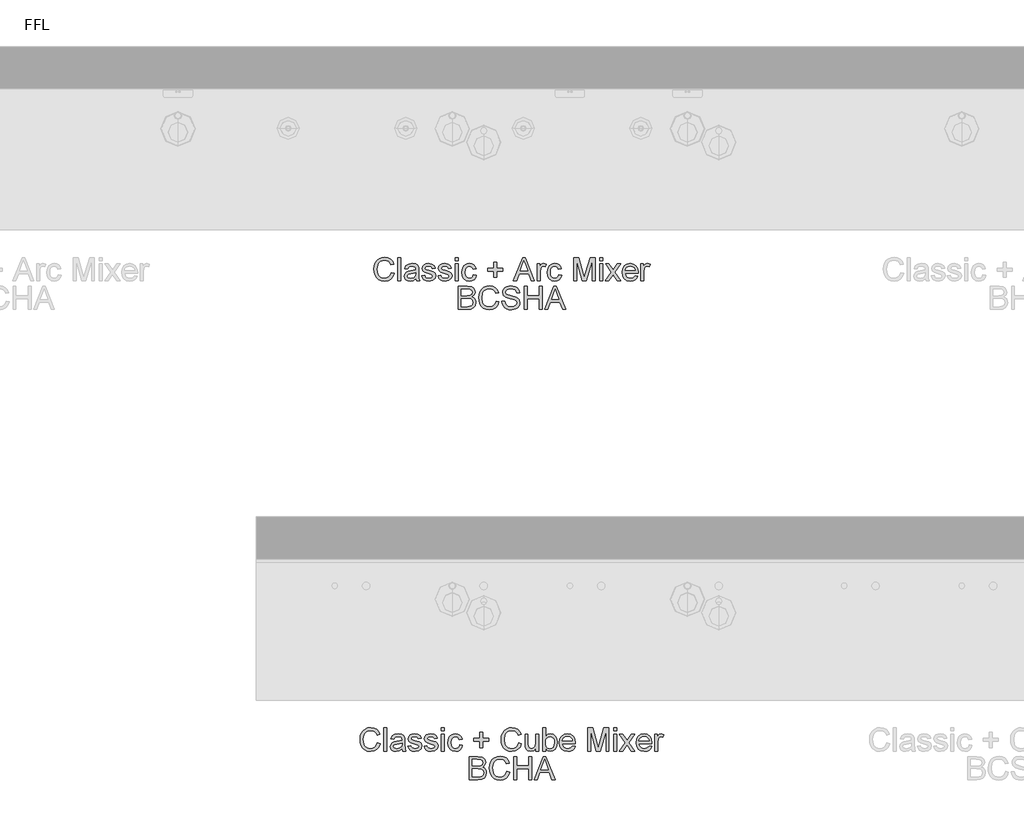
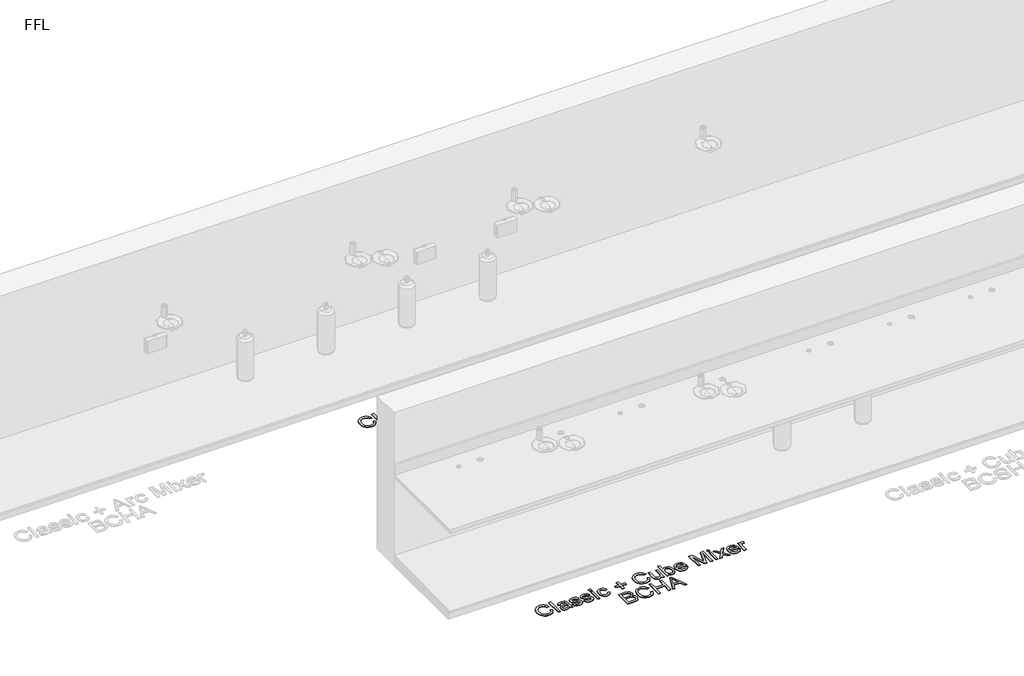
# One storey, part 6 of 13: 2 proxies.
"""IFC4 building model written with IfcOpenShell, lengths in millimetres."""

import ifcopenshell
import ifcopenshell.guid

model = None  # the IFC model being written
_history = None  # IfcOwnerHistory: only IFC2X3 demands one
_inside = {}  # id of a spatial element -> (the spatial element, [elements in it])
_under = {}  # id of a project, library or spatial element -> (it, [spatial elements below it])
_declared = {}  # id of a project -> (the project, [libraries it declares])
_typed = {}  # id of a type object -> (the type object, [elements of that type])
_made_of = {}  # id of a material, layer set ... -> (it, [elements and type objects made of it])


def new_model(schema):
    """Start an empty IFC model of exactly this schema.

    Asked for "IFC4X3", IfcOpenShell would pick the latest addendum, in which some entities
    have other attributes; the version numbers below select the first issue.
    IFC2X3 requires an IfcOwnerHistory on every rooted entity: one is made here for all.
    """
    global model, _history
    if schema == "IFC4X3":
        model = ifcopenshell.file(schema_version=(4, 3, 0, 0))
    else:
        model = ifcopenshell.file(schema=schema)
    _inside.clear()
    _under.clear()
    _declared.clear()
    _typed.clear()
    _made_of.clear()
    _history = None
    if model.schema == "IFC2X3":
        org = make("IfcOrganization", Name="unknown")
        user = make(
            "IfcPersonAndOrganization",
            ThePerson=make("IfcPerson", FamilyName="unknown"),
            TheOrganization=org,
        )
        app = make(
            "IfcApplication",
            ApplicationDeveloper=org,
            Version="unknown",
            ApplicationFullName="unknown",
            ApplicationIdentifier="unknown",
        )
        _history = make(
            "IfcOwnerHistory",
            OwningUser=user,
            OwningApplication=app,
            ChangeAction="ADDED",
            CreationDate=0,
        )
    return model


def make(cls, **values):
    """One entity of the class cls with the attributes given. An attribute that is None is left unset."""
    return model.create_entity(
        cls, **{name: value for name, value in values.items() if value is not None}
    )


def rooted(cls, **values):
    """An entity with a GlobalId (a new one), such as an element, a storey or a relation."""
    return make(cls, GlobalId=ifcopenshell.guid.new(), OwnerHistory=_history, **values)


def si_unit(unit_type, name, prefix=None):
    """IfcSIUnit, for example si_unit("LENGTHUNIT", "METRE", prefix="MILLI")."""
    return make("IfcSIUnit", UnitType=unit_type, Prefix=prefix, Name=name)


def assignment(units):
    """IfcUnitAssignment: the units of a project."""
    return None if units is None else make("IfcUnitAssignment", Units=units)


def point(xyz):
    """IfcCartesianPoint."""
    return None if xyz is None else make("IfcCartesianPoint", Coordinates=xyz)


def direction(xyz):
    """IfcDirection."""
    return None if xyz is None else make("IfcDirection", DirectionRatios=xyz)


def frame(location, z_axis=None, x_axis=None):
    """IfcAxis2Placement3D, a coordinate frame: its origin and axes. An axis left out is left unset."""
    return make(
        "IfcAxis2Placement3D",
        Location=point(location),
        Axis=direction(z_axis),
        RefDirection=direction(x_axis),
    )


def origin():
    """The frame at (0, 0, 0) with its axes left unset."""
    return frame((0.0, 0.0, 0.0))


def origin_with_axes():
    """The frame at (0, 0, 0) with the z axis (0, 0, 1) and the x axis (1, 0, 0) written out."""
    return frame((0.0, 0.0, 0.0), z_axis=(0.0, 0.0, 1.0), x_axis=(1.0, 0.0, 0.0))


def place(relative_to, where):
    """IfcLocalPlacement: puts the frame where relative to a parent placement (None: the world)."""
    return make(
        "IfcLocalPlacement", PlacementRelTo=relative_to, RelativePlacement=where
    )


def context(
    kind, dimensions, precision=None, world=None, true_north=None, identifier=None
):
    """IfcGeometricRepresentationContext, for example the 3D "Model" context."""
    return make(
        "IfcGeometricRepresentationContext",
        ContextIdentifier=identifier,
        ContextType=kind,
        CoordinateSpaceDimension=dimensions,
        Precision=precision,
        WorldCoordinateSystem=world,
        TrueNorth=true_north,
    )


def project(units=None, contexts=None):
    """IfcProject with its units and contexts."""
    return rooted(
        "IfcProject",
        Name="project",
        RepresentationContexts=contexts,
        UnitsInContext=assignment(units),
    )


def spatial(cls, under=None, at=None, **own):
    """A site, building, storey or space (cls), placed at a placement, below another one or the project."""
    s = rooted(cls, ObjectPlacement=at, **own)
    if under is not None:
        _under.setdefault(under.id(), (under, []))[1].append(s)
    return s


def polyline(points):
    """IfcPolyline through the points."""
    return make("IfcPolyline", Points=[point(p) for p in points])


def outline(outer, holes=None, kind="AREA"):
    """IfcArbitraryClosedProfileDef: a profile drawn as a closed curve; with holes, ...WithVoids."""
    if holes is None:
        return make("IfcArbitraryClosedProfileDef", ProfileType=kind, OuterCurve=outer)
    return make(
        "IfcArbitraryProfileDefWithVoids",
        ProfileType=kind,
        OuterCurve=outer,
        InnerCurves=holes,
    )


def extrude(swept, where, along, depth):
    """IfcExtrudedAreaSolid: the profile swept, set in the frame where, extruded along a direction by depth."""
    return make(
        "IfcExtrudedAreaSolid",
        SweptArea=swept,
        Position=where,
        ExtrudedDirection=direction(along),
        Depth=depth,
    )


def shape(context_of_items, identifier, shape_type, items):
    """IfcShapeRepresentation: the items that make up one representation, for example the "Body"."""
    return make(
        "IfcShapeRepresentation",
        ContextOfItems=context_of_items,
        RepresentationIdentifier=identifier,
        RepresentationType=shape_type,
        Items=items,
    )


def made_of(thing, what):
    """Note that an element or type object is made of a material, layer set ...; save() writes the relation."""
    if what is not None:
        _made_of.setdefault(what.id(), (what, []))[1].append(thing)
    return thing


def element(
    cls,
    number,
    at=None,
    inside=None,
    cuts=None,
    type_object=None,
    material=None,
    context=None,
    identifier="Body",
    shape_type=None,
    held_by="IfcProductDefinitionShape",
    body=None,
    shapes=None,
    **own,
):
    """One element of the class cls, such as IfcWall. Its Tag is "e" and its number.

    at: its placement. inside: the storey or other place that contains it. cuts: it is an
    opening in that element (IfcRelVoidsElement). A single representation is given by context,
    identifier, shape_type and body (its items); several are given by shapes. held_by: the class
    of the entity that holds the representations. save() writes the other relations.
    """
    e = rooted(cls, Tag="e%d" % number, ObjectPlacement=at, **own)
    if body is not None:
        shapes = [shape(context, identifier, shape_type, body)]
    if shapes is not None:
        e.Representation = make(held_by, Representations=shapes)
    if inside is not None:
        _inside.setdefault(inside.id(), (inside, []))[1].append(e)
    if cuts is not None:
        rooted(
            "IfcRelVoidsElement", RelatingBuildingElement=cuts, RelatedOpeningElement=e
        )
    if type_object is not None:
        _typed.setdefault(type_object.id(), (type_object, []))[1].append(e)
    return made_of(e, material)


def aggregate(whole, parts):
    """IfcRelAggregates: a whole, such as a stair, and the parts it consists of."""
    return rooted("IfcRelAggregates", RelatingObject=whole, RelatedObjects=parts)


def save(model, path):
    """Write the relations noted so far, then the file.

    IfcRelAggregates (storeys below a building ...), IfcRelContainedInSpatialStructure (elements
    in a storey), IfcRelDefinesByType, IfcRelAssociatesMaterial and IfcRelDeclares: one each for
    every whole, place, type object, material and project.
    """
    for whole, parts in _under.values():
        aggregate(whole, parts)
    for where, things in _inside.values():
        rooted(
            "IfcRelContainedInSpatialStructure",
            RelatedElements=things,
            RelatingStructure=where,
        )
    for kind, things in _typed.values():
        rooted("IfcRelDefinesByType", RelatedObjects=things, RelatingType=kind)
    for what, things in _made_of.values():
        rooted("IfcRelAssociatesMaterial", RelatedObjects=things, RelatingMaterial=what)
    for by, libraries in _declared.values():
        rooted("IfcRelDeclares", RelatingContext=by, RelatedDefinitions=libraries)
    model.write(path)


model = new_model("IFC4")

# Units and contexts
model_context = context("Model", 3, world=origin())
ifc_project = project(units=[si_unit("LENGTHUNIT", "METRE", prefix="MILLI")], contexts=[model_context])

# Site, building, storey
site = spatial("IfcSite", under=ifc_project)
building = spatial("IfcBuilding", under=site)
storey = spatial("IfcBuildingStorey", under=building, Name="FFL", Elevation=0.0)

# Proxies
placement = place(None, origin())
element("IfcBuildingElementProxy", 1, Name="150mm Arial", ObjectType="150mm Arial", at=placement, inside=storey, context=model_context, shape_type="SweptSolid", body=[
    extrude(outline(polyline([(-2858.580362, 3676.3018309), (-2840.1188235, 3671.5422155), (-2848.6374533, 3650.0292948), (-2862.0058427, 3634.3126482), (-2879.5659389, 3624.698766), (-2900.6596889, 3621.4941386), (-2922.0734509, 3623.9190184), (-2939.07916, 3631.1936578), (-2952.1140158, 3643.065653), (-2961.6152177, 3659.2826001), (-2967.415999, 3678.3481049), (-2969.3495927, 3698.7657732), (-2967.1635951, 3720.3012299), (-2960.6056024, 3738.8979847), (-2950.0181625, 3753.9655929), (-2935.7438235, 3764.9136097), (-2918.814737, 3771.5797756), (-2900.2630543, 3773.8018309), (-2880.0211673, 3770.9262299), (-2863.2858908, 3762.299427), (-2850.5800615, 3748.4532732), (-2842.4265158, 3729.9196193), (-2860.8880543, 3725.5205809), (-2867.2882947, 3738.9836217), (-2876.032285, 3748.2188982), (-2887.2281985, 3753.5599439), (-2900.9842081, 3755.3402924), (-2916.8405783, 3753.3661338), (-2929.8664197, 3747.4436578), (-2939.7507346, 3738.1948597), (-2946.1825254, 3726.2417347), (-2950.8880543, 3698.8018309), (-2945.3171408, 3666.9989463), (-2938.1957466, 3655.1224439), (-2927.9733908, 3646.6804367), (-2915.7182826, 3641.6368669), (-2902.4986312, 3639.955677), (-2887.088475, 3642.2453405), (-2874.2474293, 3649.1143309), (-2864.5524173, 3660.4905328), (-2858.580362, 3676.3018309)])), origin_with_axes(), (0.0, 0.0, 1.0), 5.0),
    extrude(outline(polyline([(-2817.0419004, 3623.8018309), (-2817.0419004, 3771.4941386), (-2798.580362, 3771.4941386), (-2798.580362, 3623.8018309), (-2817.0419004, 3623.8018309)])), origin_with_axes(), (0.0, 0.0, 1.0), 5.0),
    extrude(outline(polyline([(-2701.657285, 3637.6479847), (-2719.5599293, 3625.1359655), (-2739.3375735, 3621.4941386), (-2754.7657586, 3623.6846434), (-2766.1464677, 3630.2561578), (-2773.1641961, 3640.2351242), (-2775.5034389, 3652.6479847), (-2771.969785, 3667.2513501), (-2762.6849293, 3677.8523117), (-2749.7582466, 3683.910004), (-2733.7846889, 3686.6864463), (-2701.7654581, 3693.0326001), (-2701.657285, 3697.143177), (-2702.9283187, 3705.3823597), (-2706.7414197, 3710.7729847), (-2715.2690639, 3714.7753886), (-2727.1500735, 3716.1095232), (-2745.8279581, 3712.5578405), (-2754.7342081, 3699.955677), (-2773.1957466, 3702.2633693), (-2765.2089677, 3720.2922155), (-2749.127237, 3730.8571193), (-2724.7702658, 3734.5710617), (-2702.3964677, 3731.2898117), (-2689.7582466, 3723.050629), (-2684.0971889, 3710.5205809), (-2683.1957466, 3694.3667347), (-2683.1957466, 3671.3979847), (-2682.2582466, 3639.3246674), (-2678.580362, 3623.8018309), (-2697.0419004, 3623.8018309), (-2701.657285, 3637.6479847)]), holes=[polyline([(-2701.657285, 3674.5710617), (-2731.4409389, 3668.910004), (-2747.3243524, 3665.9172155), (-2754.517862, 3661.049427), (-2757.0419004, 3653.9460617), (-2751.5431024, 3643.9580809), (-2735.407285, 3639.955677), (-2716.7294004, 3644.3727443), (-2704.6861312, 3655.0638501), (-2701.7654581, 3669.3426963), (-2701.657285, 3674.5710617)])]), origin_with_axes(), (0.0, 0.0, 1.0), 5.0),
    extrude(outline(polyline([(-2664.7342081, 3656.1095232), (-2646.2726697, 3658.4172155), (-2643.361011, 3650.5205809), (-2637.7269966, 3644.7152924), (-2618.1476697, 3639.955677), (-2599.3255543, 3644.3186578), (-2593.1957466, 3654.5590424), (-2599.361612, 3662.8523117), (-2618.3640158, 3668.1167347), (-2646.1644966, 3677.1491867), (-2658.29791, 3687.6960617), (-2662.4265158, 3702.5878886), (-2659.1092081, 3716.3438982), (-2650.0587274, 3726.8547155), (-2638.3219485, 3732.3174559), (-2622.438535, 3734.5710617), (-2599.9745927, 3730.9472636), (-2585.6957466, 3721.1395713), (-2579.3495927, 3704.5710617), (-2597.8111312, 3702.2633693), (-2604.752237, 3712.4496674), (-2620.9962274, 3716.1095232), (-2638.6644966, 3712.611927), (-2643.9649774, 3704.4628886), (-2641.7654581, 3699.0902924), (-2634.8784389, 3695.0157732), (-2618.9769966, 3691.0854847), (-2591.8796408, 3682.3955809), (-2579.2955062, 3672.5518309), (-2574.7342081, 3656.5061578), (-2580.0887754, 3638.8378886), (-2595.5394966, 3626.019379), (-2618.4000735, 3621.4941386), (-2637.0148572, 3623.675629), (-2650.5995927, 3630.2201001), (-2659.6681024, 3641.0554367), (-2664.7342081, 3656.1095232)])), origin_with_axes(), (0.0, 0.0, 1.0), 5.0),
    extrude(outline(polyline([(-2560.8880543, 3656.1095232), (-2542.4265158, 3658.4172155), (-2539.5148572, 3650.5205809), (-2533.8808427, 3644.7152924), (-2514.3015158, 3639.955677), (-2495.4794004, 3644.3186578), (-2489.3495927, 3654.5590424), (-2495.5154581, 3662.8523117), (-2514.517862, 3668.1167347), (-2542.3183427, 3677.1491867), (-2554.4517562, 3687.6960617), (-2558.580362, 3702.5878886), (-2555.2630543, 3716.3438982), (-2546.2125735, 3726.8547155), (-2534.4757947, 3732.3174559), (-2518.5923812, 3734.5710617), (-2496.1284389, 3730.9472636), (-2481.8495927, 3721.1395713), (-2475.5034389, 3704.5710617), (-2493.9649774, 3702.2633693), (-2500.9060831, 3712.4496674), (-2517.1500735, 3716.1095232), (-2534.8183427, 3712.611927), (-2540.1188235, 3704.4628886), (-2537.9193043, 3699.0902924), (-2531.032285, 3695.0157732), (-2515.1308427, 3691.0854847), (-2488.033487, 3682.3955809), (-2475.4493524, 3672.5518309), (-2470.8880543, 3656.5061578), (-2476.2426216, 3638.8378886), (-2491.6933427, 3626.019379), (-2514.5539197, 3621.4941386), (-2533.1687033, 3623.675629), (-2546.7534389, 3630.2201001), (-2555.8219485, 3641.0554367), (-2560.8880543, 3656.1095232)])), origin_with_axes(), (0.0, 0.0, 1.0), 5.0),
    extrude(outline(polyline([(-2450.1188235, 3623.8018309), (-2450.1188235, 3732.2633693), (-2431.657285, 3732.2633693), (-2431.657285, 3623.8018309), (-2450.1188235, 3623.8018309)])), origin_with_axes(), (0.0, 0.0, 1.0), 5.0),
    extrude(outline(polyline([(-2450.1188235, 3753.0326001), (-2450.1188235, 3771.4941386), (-2431.657285, 3771.4941386), (-2431.657285, 3753.0326001), (-2450.1188235, 3753.0326001)])), origin_with_axes(), (0.0, 0.0, 1.0), 5.0),
    extrude(outline(polyline([(-2334.7342081, 3663.0326001), (-2316.2726697, 3660.7249078), (-2321.4199052, 3644.3051362), (-2331.0923812, 3631.8967828), (-2344.3796408, 3624.0947996), (-2360.3712274, 3621.4941386), (-2380.009148, 3625.1224439), (-2395.3652177, 3636.0073597), (-2405.2765759, 3653.6711217), (-2408.580362, 3677.6359655), (-2402.9373331, 3708.3030328), (-2395.8159389, 3719.8009294), (-2385.7378139, 3728.0085617), (-2373.681023, 3732.9304367), (-2360.6236312, 3734.5710617), (-2345.0241721, 3732.3174559), (-2332.5527177, 3725.5566386), (-2323.6059028, 3714.6491867), (-2318.580362, 3699.955677), (-2337.0419004, 3697.6479847), (-2345.6056024, 3711.4761097), (-2360.4794004, 3716.1095232), (-2372.4099894, 3713.8288742), (-2381.8796408, 3706.986927), (-2388.0590278, 3695.2140905), (-2390.1188235, 3678.1407732), (-2388.1041, 3660.8375881), (-2382.0599293, 3649.0241867), (-2372.7615519, 3642.2228044), (-2360.9842081, 3639.955677), (-2351.4244125, 3641.3709415), (-2343.5863716, 3645.6167347), (-2337.884749, 3652.8012299), (-2334.7342081, 3663.0326001)])), origin_with_axes(), (0.0, 0.0, 1.0), 5.0),
    extrude(outline(polyline([(-2205.5034389, 3646.878754), (-2205.5034389, 3686.1095232), (-2244.7342081, 3686.1095232), (-2244.7342081, 3704.5710617), (-2205.5034389, 3704.5710617), (-2205.5034389, 3743.8018309), (-2187.0419004, 3743.8018309), (-2187.0419004, 3704.5710617), (-2147.8111312, 3704.5710617), (-2147.8111312, 3686.1095232), (-2187.0419004, 3686.1095232), (-2187.0419004, 3646.878754), (-2205.5034389, 3646.878754)])), origin_with_axes(), (0.0, 0.0, 1.0), 5.0),
    extrude(outline(polyline([(-2079.626035, 3623.8018309), (-2020.6717081, 3771.4941386), (-2004.9505543, 3771.4941386), (-1945.9962274, 3623.8018309), (-1965.5034389, 3623.8018309), (-1982.4144966, 3669.955677), (-2043.2438235, 3669.955677), (-2060.1188235, 3623.8018309), (-2079.626035, 3623.8018309)]), holes=[polyline([(-2036.4649774, 3688.4172155), (-1989.157285, 3688.4172155), (-2002.4625735, 3724.7273117), (-2012.8111312, 3753.0326001), (-2022.0058427, 3727.9003886), (-2036.4649774, 3688.4172155)])]), origin_with_axes(), (0.0, 0.0, 1.0), 5.0),
    extrude(outline(polyline([(-1928.580362, 3623.8018309), (-1928.580362, 3732.2633693), (-1912.4265158, 3732.2633693), (-1912.4265158, 3716.2176963), (-1900.9601697, 3731.0013501), (-1889.4217081, 3734.5710617), (-1870.8880543, 3728.8739463), (-1877.0539197, 3712.3234655), (-1890.0346889, 3716.1095232), (-1900.4733908, 3712.4676963), (-1907.126035, 3702.3715424), (-1910.1188235, 3680.8090424), (-1910.1188235, 3623.8018309), (-1928.580362, 3623.8018309)])), origin_with_axes(), (0.0, 0.0, 1.0), 5.0),
    extrude(outline(polyline([(-1790.1188235, 3663.0326001), (-1771.657285, 3660.7249078), (-1776.8045206, 3644.3051362), (-1786.4769966, 3631.8967828), (-1799.7642562, 3624.0947996), (-1815.7558427, 3621.4941386), (-1835.3937634, 3625.1224439), (-1850.7498331, 3636.0073597), (-1860.6611913, 3653.6711217), (-1863.9649774, 3677.6359655), (-1858.3219485, 3708.3030328), (-1851.2005543, 3719.8009294), (-1841.1224293, 3728.0085617), (-1829.0656384, 3732.9304367), (-1816.0082466, 3734.5710617), (-1800.4087875, 3732.3174559), (-1787.9373331, 3725.5566386), (-1778.9905182, 3714.6491867), (-1773.9649774, 3699.955677), (-1792.4265158, 3697.6479847), (-1800.9902177, 3711.4761097), (-1815.8640158, 3716.1095232), (-1827.7946048, 3713.8288742), (-1837.2642562, 3706.986927), (-1843.4436432, 3695.2140905), (-1845.5034389, 3678.1407732), (-1843.4887153, 3660.8375881), (-1837.4445447, 3649.0241867), (-1828.1461673, 3642.2228044), (-1816.3688235, 3639.955677), (-1806.8090278, 3641.3709415), (-1798.970987, 3645.6167347), (-1793.2693644, 3652.8012299), (-1790.1188235, 3663.0326001)])), origin_with_axes(), (0.0, 0.0, 1.0), 5.0),
    extrude(outline(polyline([(-1695.5034389, 3623.8018309), (-1695.5034389, 3771.4941386), (-1663.736612, 3771.4941386), (-1633.5202658, 3667.3955809), (-1627.4265158, 3645.6527924), (-1620.8279581, 3669.1984655), (-1591.1164197, 3771.4941386), (-1559.3495927, 3771.4941386), (-1559.3495927, 3623.8018309), (-1577.8111312, 3623.8018309), (-1577.8111312, 3753.0326001), (-1614.9144966, 3623.8018309), (-1639.938535, 3623.8018309), (-1677.0419004, 3753.0326001), (-1677.0419004, 3623.8018309), (-1695.5034389, 3623.8018309)])), origin_with_axes(), (0.0, 0.0, 1.0), 5.0),
    extrude(outline(polyline([(-1529.3495927, 3753.0326001), (-1529.3495927, 3771.4941386), (-1510.8880543, 3771.4941386), (-1510.8880543, 3753.0326001), (-1529.3495927, 3753.0326001)])), origin_with_axes(), (0.0, 0.0, 1.0), 5.0),
    extrude(outline(polyline([(-1529.3495927, 3623.8018309), (-1529.3495927, 3732.2633693), (-1510.8880543, 3732.2633693), (-1510.8880543, 3623.8018309), (-1529.3495927, 3623.8018309)])), origin_with_axes(), (0.0, 0.0, 1.0), 5.0),
    extrude(outline(polyline([(-1494.7342081, 3623.8018309), (-1455.2870927, 3678.3210617), (-1492.4265158, 3732.2633693), (-1470.2149774, 3732.2633693), (-1452.2943043, 3706.3018309), (-1443.9289197, 3694.0422155), (-1436.6813235, 3704.066254), (-1416.2726697, 3732.2633693), (-1394.0611312, 3732.2633693), (-1433.0755543, 3678.3210617), (-1395.5034389, 3623.8018309), (-1417.7149774, 3623.8018309), (-1440.3231504, 3656.5782732), (-1444.469785, 3662.5638501), (-1472.5226697, 3623.8018309), (-1494.7342081, 3623.8018309)])), origin_with_axes(), (0.0, 0.0, 1.0), 5.0),
    extrude(outline(polyline([(-1303.4120927, 3656.1095232), (-1285.3111312, 3653.8018309), (-1291.8330663, 3640.1630088), (-1302.2402177, 3629.9676963), (-1316.2982105, 3623.612528), (-1333.7726697, 3621.4941386), (-1355.4343283, 3625.1494871), (-1372.1019966, 3636.1155328), (-1382.7300014, 3653.6801362), (-1386.2726697, 3677.1311578), (-1382.6939437, 3701.3709415), (-1371.9577658, 3719.4989463), (-1355.5154581, 3730.8030328), (-1334.8183427, 3734.5710617), (-1314.7657586, 3730.8120472), (-1298.7426216, 3719.535004), (-1288.2363115, 3701.4430568), (-1284.7342081, 3677.2393309), (-1284.8423812, 3672.2633693), (-1367.8111312, 3672.2633693), (-1364.6155182, 3658.4442588), (-1357.1921408, 3648.285004), (-1346.478499, 3642.0380088), (-1333.4120927, 3639.955677), (-1315.3111312, 3643.8138501), (-1303.4120927, 3656.1095232)]), holes=[polyline([(-1367.8111312, 3690.7249078), (-1303.1957466, 3690.7249078), (-1305.6927418, 3700.4785136), (-1310.5875735, 3707.455677), (-1321.3507947, 3713.9460617), (-1334.8904581, 3716.1095232), (-1347.3348692, 3714.3832612), (-1357.6248331, 3709.2044751), (-1364.7777778, 3701.1320592), (-1367.8111312, 3690.7249078)])]), origin_with_axes(), (0.0, 0.0, 1.0), 5.0),
    extrude(outline(polyline([(-1266.2726697, 3623.8018309), (-1266.2726697, 3732.2633693), (-1250.1188235, 3732.2633693), (-1250.1188235, 3716.2176963), (-1238.6524774, 3731.0013501), (-1227.1140158, 3734.5710617), (-1208.580362, 3728.8739463), (-1214.7462274, 3712.3234655), (-1227.7269966, 3716.1095232), (-1238.1656985, 3712.4676963), (-1244.8183427, 3702.3715424), (-1247.8111312, 3680.8090424), (-1247.8111312, 3623.8018309), (-1266.2726697, 3623.8018309)])), origin_with_axes(), (0.0, 0.0, 1.0), 5.0),
    extrude(outline(polyline([(-2430.5034389, 3441.4941386), (-2430.5034389, 3589.1864463), (-2374.1452658, 3589.1864463), (-2346.5431024, 3584.8414943), (-2337.267261, 3579.3291746), (-2330.2450254, 3571.4821193), (-2324.3495927, 3552.5878886), (-2329.3075254, 3535.3342828), (-2344.2894966, 3522.2633693), (-2333.8282586, 3516.800629), (-2326.0983908, 3508.4893309), (-2321.3252538, 3497.8793549), (-2319.7342081, 3485.5205809), (-2324.07916, 3465.6708213), (-2334.8423812, 3451.5362059), (-2350.9060831, 3444.0362059), (-2374.5779581, 3441.4941386), (-2430.5034389, 3441.4941386)]), holes=[polyline([(-2412.0419004, 3529.1864463), (-2378.3279581, 3529.1864463), (-2358.6404581, 3530.7729847), (-2346.7955062, 3537.6059174), (-2342.8111312, 3549.6311578), (-2346.5250735, 3561.674427), (-2357.1620927, 3568.7958213), (-2380.8880543, 3570.7249078), (-2412.0419004, 3570.7249078), (-2412.0419004, 3529.1864463)]), polyline([(-2412.0419004, 3459.955677), (-2374.1813235, 3459.955677), (-2360.4794004, 3460.6768309), (-2348.8868524, 3464.6972636), (-2341.2065639, 3472.9003886), (-2338.1957466, 3485.3402924), (-2341.7294004, 3499.691254), (-2353.1777177, 3508.2549559), (-2375.9842081, 3510.7249078), (-2412.0419004, 3510.7249078), (-2412.0419004, 3459.955677)])]), origin_with_axes(), (0.0, 0.0, 1.0), 5.0),
    extrude(outline(polyline([(-2190.5034389, 3493.9941386), (-2172.0419004, 3489.2345232), (-2180.5605302, 3467.7216025), (-2193.9289197, 3452.0049559), (-2211.4890158, 3442.3910737), (-2232.5827658, 3439.1864463), (-2253.9965278, 3441.6113261), (-2271.002237, 3448.8859655), (-2284.0370927, 3460.7579607), (-2293.5382947, 3476.9749078), (-2299.3390759, 3496.0404126), (-2301.2726697, 3516.4580809), (-2299.0866721, 3537.9935376), (-2292.5286793, 3556.5902924), (-2281.9412394, 3571.6579006), (-2267.6669004, 3582.6059174), (-2250.7378139, 3589.2720833), (-2232.1861312, 3591.4941386), (-2211.9442442, 3588.6185376), (-2195.2089677, 3579.9917347), (-2182.5031384, 3566.1455809), (-2174.3495927, 3547.611927), (-2192.8111312, 3543.2128886), (-2199.2113716, 3556.6759294), (-2207.955362, 3565.9112059), (-2219.1512754, 3571.2522516), (-2232.907285, 3573.0326001), (-2248.7636552, 3571.0584415), (-2261.7894966, 3565.1359655), (-2271.6738115, 3555.8871674), (-2278.1056024, 3543.9340424), (-2282.8111312, 3516.4941386), (-2277.2402177, 3484.691254), (-2270.1188235, 3472.8147516), (-2259.8964677, 3464.3727443), (-2247.6413596, 3459.3291746), (-2234.4217081, 3457.6479847), (-2219.0115519, 3459.9376482), (-2206.1705062, 3466.8066386), (-2196.4754942, 3478.1828405), (-2190.5034389, 3493.9941386)])), origin_with_axes(), (0.0, 0.0, 1.0), 5.0),
    extrude(outline(polyline([(-2153.580362, 3492.2633693), (-2135.1188235, 3492.2633693), (-2129.1693043, 3473.783802), (-2114.6380543, 3462.1011097), (-2092.4986312, 3457.6479847), (-2073.2077658, 3461.019379), (-2060.7498331, 3470.2862059), (-2056.657285, 3482.6720232), (-2059.7221889, 3494.1924559), (-2072.2702658, 3502.5758693), (-2099.1512754, 3509.6251482), (-2128.0875735, 3518.7297155), (-2143.7906985, 3532.4676963), (-2148.9649774, 3550.8210617), (-2147.3649173, 3561.6338621), (-2142.564737, 3571.7164943), (-2134.6906384, 3580.2621674), (-2123.8688235, 3586.4640905), (-2096.501035, 3591.4941386), (-2067.2943043, 3586.2297155), (-2056.0983908, 3579.7303165), (-2047.8231504, 3570.7609655), (-2042.5857706, 3559.8805568), (-2040.5034389, 3547.6479847), (-2058.9649774, 3547.6479847), (-2062.3544004, 3558.6636097), (-2069.4217081, 3566.6143309), (-2080.4643764, 3571.4280328), (-2095.7798812, 3573.0326001), (-2111.4559629, 3571.4460617), (-2122.2101697, 3566.6864463), (-2128.4301216, 3559.6822395), (-2130.5034389, 3551.361927), (-2129.0340879, 3544.2675761), (-2124.626035, 3538.5614463), (-2094.4818043, 3528.2489463), (-2061.813535, 3518.9821193), (-2051.2891961, 3512.284403), (-2043.9469485, 3504.018177), (-2038.1957466, 3483.1407732), (-2039.8498932, 3471.7600641), (-2044.8123331, 3461.0554367), (-2052.8802418, 3451.8426963), (-2063.8507947, 3444.9376482), (-2091.7774774, 3439.1864463), (-2109.8649173, 3440.736927), (-2124.752237, 3445.3883693), (-2136.6107105, 3453.158802), (-2145.611612, 3464.066254), (-2151.3898572, 3477.3535136), (-2153.580362, 3492.2633693)])), origin_with_axes(), (0.0, 0.0, 1.0), 5.0),
    extrude(outline(polyline([(-2010.5034389, 3441.4941386), (-2010.5034389, 3589.1864463), (-1992.0419004, 3589.1864463), (-1992.0419004, 3529.1864463), (-1913.580362, 3529.1864463), (-1913.580362, 3589.1864463), (-1895.1188235, 3589.1864463), (-1895.1188235, 3441.4941386), (-1913.580362, 3441.4941386), (-1913.580362, 3510.7249078), (-1992.0419004, 3510.7249078), (-1992.0419004, 3441.4941386), (-2010.5034389, 3441.4941386)])), origin_with_axes(), (0.0, 0.0, 1.0), 5.0),
    extrude(outline(polyline([(-1880.0106504, 3441.4941386), (-1821.0563235, 3589.1864463), (-1805.3351697, 3589.1864463), (-1746.3808427, 3441.4941386), (-1765.8880543, 3441.4941386), (-1782.799112, 3487.6479847), (-1843.6284389, 3487.6479847), (-1860.5034389, 3441.4941386), (-1880.0106504, 3441.4941386)]), holes=[polyline([(-1836.8495927, 3506.1095232), (-1789.5419004, 3506.1095232), (-1802.8471889, 3542.4196193), (-1813.1957466, 3570.7249078), (-1822.3904581, 3545.5926963), (-1836.8495927, 3506.1095232)])]), origin_with_axes(), (0.0, 0.0, 1.0), 5.0),
])
element("IfcBuildingElementProxy", 2, Name="150mm Arial", ObjectType="150mm Arial", at=placement, inside=storey, context=model_context, shape_type="SweptSolid", body=[
    extrude(outline(polyline([(-2947.4276006, 676.3018309), (-2928.9660621, 671.5422155), (-2937.4846919, 650.0292948), (-2950.8530813, 634.3126482), (-2968.4131775, 624.698766), (-2989.5069275, 621.4941386), (-3010.9206895, 623.9190184), (-3027.9263986, 631.1936578), (-3040.9612544, 643.065653), (-3050.4624563, 659.2826001), (-3056.2632376, 678.3481049), (-3058.1968313, 698.7657732), (-3056.0108337, 720.3012299), (-3049.4528409, 738.8979847), (-3038.865401, 753.9655929), (-3024.5910621, 764.9136097), (-3007.6619756, 771.5797756), (-2989.1102929, 773.8018309), (-2968.8684059, 770.9262299), (-2952.1331294, 762.299427), (-2939.4273001, 748.4532732), (-2931.2737544, 729.9196193), (-2949.7352929, 725.5205809), (-2956.1355333, 738.9836217), (-2964.8795236, 748.2188982), (-2976.0754371, 753.5599439), (-2989.8314467, 755.3402924), (-3005.6878169, 753.3661338), (-3018.7136583, 747.4436578), (-3028.5979732, 738.1948597), (-3035.029764, 726.2417347), (-3039.7352929, 698.8018309), (-3034.1643794, 666.9989463), (-3027.0429852, 655.1224439), (-3016.8206294, 646.6804367), (-3004.5655212, 641.6368669), (-2991.3458698, 639.955677), (-2975.9357135, 642.2453405), (-2963.0946679, 649.1143309), (-2953.3996559, 660.4905328), (-2947.4276006, 676.3018309)])), origin_with_axes(), (0.0, 0.0, 1.0), 5.0),
    extrude(outline(polyline([(-2905.889139, 623.8018309), (-2905.889139, 771.4941386), (-2887.4276006, 771.4941386), (-2887.4276006, 623.8018309), (-2905.889139, 623.8018309)])), origin_with_axes(), (0.0, 0.0, 1.0), 5.0),
    extrude(outline(polyline([(-2790.5045236, 637.6479847), (-2808.4071679, 625.1359655), (-2828.1848121, 621.4941386), (-2843.6129972, 623.6846434), (-2854.9937063, 630.2561578), (-2862.0114347, 640.2351242), (-2864.3506775, 652.6479847), (-2860.8170236, 667.2513501), (-2851.5321679, 677.8523117), (-2838.6054852, 683.910004), (-2822.6319275, 686.6864463), (-2790.6126967, 693.0326001), (-2790.5045236, 697.143177), (-2791.7755573, 705.3823597), (-2795.5886583, 710.7729847), (-2804.1163025, 714.7753886), (-2815.9973121, 716.1095232), (-2834.6751967, 712.5578405), (-2843.5814467, 699.955677), (-2862.0429852, 702.2633693), (-2854.0562063, 720.2922155), (-2837.9744756, 730.8571193), (-2813.6175044, 734.5710617), (-2791.2437063, 731.2898117), (-2778.6054852, 723.050629), (-2772.9444275, 710.5205809), (-2772.0429852, 694.3667347), (-2772.0429852, 671.3979847), (-2771.1054852, 639.3246674), (-2767.4276006, 623.8018309), (-2785.889139, 623.8018309), (-2790.5045236, 637.6479847)]), holes=[polyline([(-2790.5045236, 674.5710617), (-2820.2881775, 668.910004), (-2836.1715909, 665.9172155), (-2843.3651006, 661.049427), (-2845.889139, 653.9460617), (-2840.3903409, 643.9580809), (-2824.2545236, 639.955677), (-2805.576639, 644.3727443), (-2793.5333698, 655.0638501), (-2790.6126967, 669.3426963), (-2790.5045236, 674.5710617)])]), origin_with_axes(), (0.0, 0.0, 1.0), 5.0),
    extrude(outline(polyline([(-2753.5814467, 656.1095232), (-2735.1199083, 658.4172155), (-2732.2082496, 650.5205809), (-2726.5742352, 644.7152924), (-2706.9949083, 639.955677), (-2688.1727929, 644.3186578), (-2682.0429852, 654.5590424), (-2688.2088506, 662.8523117), (-2707.2112544, 668.1167347), (-2735.0117352, 677.1491867), (-2747.1451486, 687.6960617), (-2751.2737544, 702.5878886), (-2747.9564467, 716.3438982), (-2738.9059659, 726.8547155), (-2727.1691871, 732.3174559), (-2711.2857736, 734.5710617), (-2688.8218313, 730.9472636), (-2674.5429852, 721.1395713), (-2668.1968313, 704.5710617), (-2686.6583698, 702.2633693), (-2693.5994756, 712.4496674), (-2709.8434659, 716.1095232), (-2727.5117352, 712.611927), (-2732.8122159, 704.4628886), (-2730.6126967, 699.0902924), (-2723.7256775, 695.0157732), (-2707.8242352, 691.0854847), (-2680.7268794, 682.3955809), (-2668.1427448, 672.5518309), (-2663.5814467, 656.5061578), (-2668.936014, 638.8378886), (-2684.3867352, 626.019379), (-2707.2473121, 621.4941386), (-2725.8620958, 623.675629), (-2739.4468313, 630.2201001), (-2748.5153409, 641.0554367), (-2753.5814467, 656.1095232)])), origin_with_axes(), (0.0, 0.0, 1.0), 5.0),
    extrude(outline(polyline([(-2649.7352929, 656.1095232), (-2631.2737544, 658.4172155), (-2628.3620958, 650.5205809), (-2622.7280813, 644.7152924), (-2603.1487544, 639.955677), (-2584.326639, 644.3186578), (-2578.1968313, 654.5590424), (-2584.3626967, 662.8523117), (-2603.3651006, 668.1167347), (-2631.1655813, 677.1491867), (-2643.2989948, 687.6960617), (-2647.4276006, 702.5878886), (-2644.1102929, 716.3438982), (-2635.0598121, 726.8547155), (-2623.3230333, 732.3174559), (-2607.4396198, 734.5710617), (-2584.9756775, 730.9472636), (-2570.6968313, 721.1395713), (-2564.3506775, 704.5710617), (-2582.8122159, 702.2633693), (-2589.7533217, 712.4496674), (-2605.9973121, 716.1095232), (-2623.6655813, 712.611927), (-2628.9660621, 704.4628886), (-2626.7665429, 699.0902924), (-2619.8795236, 695.0157732), (-2603.9780813, 691.0854847), (-2576.8807256, 682.3955809), (-2564.2965909, 672.5518309), (-2559.7352929, 656.5061578), (-2565.0898602, 638.8378886), (-2580.5405813, 626.019379), (-2603.4011583, 621.4941386), (-2622.0159419, 623.675629), (-2635.6006775, 630.2201001), (-2644.6691871, 641.0554367), (-2649.7352929, 656.1095232)])), origin_with_axes(), (0.0, 0.0, 1.0), 5.0),
    extrude(outline(polyline([(-2538.9660621, 623.8018309), (-2538.9660621, 732.2633693), (-2520.5045236, 732.2633693), (-2520.5045236, 623.8018309), (-2538.9660621, 623.8018309)])), origin_with_axes(), (0.0, 0.0, 1.0), 5.0),
    extrude(outline(polyline([(-2538.9660621, 753.0326001), (-2538.9660621, 771.4941386), (-2520.5045236, 771.4941386), (-2520.5045236, 753.0326001), (-2538.9660621, 753.0326001)])), origin_with_axes(), (0.0, 0.0, 1.0), 5.0),
    extrude(outline(polyline([(-2423.5814467, 663.0326001), (-2405.1199083, 660.7249078), (-2410.2671438, 644.3051362), (-2419.9396198, 631.8967828), (-2433.2268794, 624.0947996), (-2449.2184659, 621.4941386), (-2468.8563866, 625.1224439), (-2484.2124563, 636.0073597), (-2494.1238145, 653.6711217), (-2497.4276006, 677.6359655), (-2491.7845717, 708.3030328), (-2484.6631775, 719.8009294), (-2474.5850525, 728.0085617), (-2462.5282616, 732.9304367), (-2449.4708698, 734.5710617), (-2433.8714107, 732.3174559), (-2421.3999563, 725.5566386), (-2412.4531414, 714.6491867), (-2407.4276006, 699.955677), (-2425.889139, 697.6479847), (-2434.4528409, 711.4761097), (-2449.326639, 716.1095232), (-2461.257228, 713.8288742), (-2470.7268794, 706.986927), (-2476.9062664, 695.2140905), (-2478.9660621, 678.1407732), (-2476.9513385, 660.8375881), (-2470.9071679, 649.0241867), (-2461.6087905, 642.2228044), (-2449.8314467, 639.955677), (-2440.271651, 641.3709415), (-2432.4336102, 645.6167347), (-2426.7319876, 652.8012299), (-2423.5814467, 663.0326001)])), origin_with_axes(), (0.0, 0.0, 1.0), 5.0),
    extrude(outline(polyline([(-2294.3506775, 646.878754), (-2294.3506775, 686.1095232), (-2333.5814467, 686.1095232), (-2333.5814467, 704.5710617), (-2294.3506775, 704.5710617), (-2294.3506775, 743.8018309), (-2275.889139, 743.8018309), (-2275.889139, 704.5710617), (-2236.6583698, 704.5710617), (-2236.6583698, 686.1095232), (-2275.889139, 686.1095232), (-2275.889139, 646.878754), (-2294.3506775, 646.878754)])), origin_with_axes(), (0.0, 0.0, 1.0), 5.0),
    extrude(outline(polyline([(-2047.4276006, 676.3018309), (-2028.9660621, 671.5422155), (-2037.4846919, 650.0292948), (-2050.8530813, 634.3126482), (-2068.4131775, 624.698766), (-2089.5069275, 621.4941386), (-2110.9206895, 623.9190184), (-2127.9263986, 631.1936578), (-2140.9612544, 643.065653), (-2150.4624563, 659.2826001), (-2156.2632376, 678.3481049), (-2158.1968313, 698.7657732), (-2156.0108337, 720.3012299), (-2149.4528409, 738.8979847), (-2138.865401, 753.9655929), (-2124.5910621, 764.9136097), (-2107.6619756, 771.5797756), (-2089.1102929, 773.8018309), (-2068.8684059, 770.9262299), (-2052.1331294, 762.299427), (-2039.4273001, 748.4532732), (-2031.2737544, 729.9196193), (-2049.7352929, 725.5205809), (-2056.1355333, 738.9836217), (-2064.8795236, 748.2188982), (-2076.0754371, 753.5599439), (-2089.8314467, 755.3402924), (-2105.6878169, 753.3661338), (-2118.7136583, 747.4436578), (-2128.5979732, 738.1948597), (-2135.029764, 726.2417347), (-2139.7352929, 698.8018309), (-2134.1643794, 666.9989463), (-2127.0429852, 655.1224439), (-2116.8206294, 646.6804367), (-2104.5655212, 641.6368669), (-2091.3458698, 639.955677), (-2075.9357135, 642.2453405), (-2063.0946679, 649.1143309), (-2053.3996559, 660.4905328), (-2047.4276006, 676.3018309)])), origin_with_axes(), (0.0, 0.0, 1.0), 5.0),
    extrude(outline(polyline([(-1936.6583698, 623.8018309), (-1936.6583698, 642.4436578), (-1951.1175044, 626.7315184), (-1969.9756775, 621.4941386), (-1987.3374563, 625.1720232), (-1999.3086102, 634.4027924), (-2004.8074083, 647.9965424), (-2005.889139, 665.160004), (-2005.889139, 732.2633693), (-1987.4276006, 732.2633693), (-1987.4276006, 673.8499078), (-1986.3098121, 655.0277924), (-1979.0081294, 643.9761097), (-1965.2521198, 639.955677), (-1949.8374563, 644.066254), (-1939.6511583, 655.2621674), (-1936.6583698, 675.8330809), (-1936.6583698, 732.2633693), (-1918.1968313, 732.2633693), (-1918.1968313, 623.8018309), (-1936.6583698, 623.8018309)])), origin_with_axes(), (0.0, 0.0, 1.0), 5.0),
    extrude(outline(polyline([(-1874.3506775, 623.8018309), (-1892.8122159, 623.8018309), (-1892.8122159, 771.4941386), (-1874.3506775, 771.4941386), (-1874.3506775, 716.722504), (-1861.4239948, 730.1089222), (-1845.3602929, 734.5710617), (-1826.8626967, 730.550629), (-1812.5117352, 719.2465424), (-1803.6956294, 701.6684174), (-1800.5045236, 679.6551963), (-1803.8083097, 655.0097636), (-1813.7196679, 636.674427), (-1828.2644395, 625.2892107), (-1845.4684659, 621.4941386), (-1861.8837304, 626.3889703), (-1874.3506775, 641.0734655), (-1874.3506775, 623.8018309)]), holes=[polyline([(-1874.3506775, 678.7898117), (-1873.0886583, 663.393177), (-1869.3026006, 652.972504), (-1859.6301246, 643.2098838), (-1847.0550044, 639.955677), (-1836.3999563, 642.3535136), (-1827.295389, 649.5470232), (-1821.0483938, 661.4911338), (-1818.9660621, 678.1407732), (-1820.9627568, 695.033802), (-1826.9528409, 706.8426963), (-1835.7734539, 713.7928165), (-1846.2617352, 716.1095232), (-1856.9167833, 713.7116867), (-1866.0213506, 706.518177), (-1872.2683458, 694.7904126), (-1874.3506775, 678.7898117)])]), origin_with_axes(), (0.0, 0.0, 1.0), 5.0),
    extrude(outline(polyline([(-1703.7977929, 656.1095232), (-1685.6968313, 653.8018309), (-1692.2187664, 640.1630088), (-1702.6259179, 629.9676963), (-1716.6839107, 623.612528), (-1734.1583698, 621.4941386), (-1755.8200284, 625.1494871), (-1772.4876967, 636.1155328), (-1783.1157015, 653.6801362), (-1786.6583698, 677.1311578), (-1783.0796438, 701.3709415), (-1772.3434659, 719.4989463), (-1755.9011583, 730.8030328), (-1735.2040429, 734.5710617), (-1715.1514587, 730.8120472), (-1699.1283217, 719.535004), (-1688.6220116, 701.4430568), (-1685.1199083, 677.2393309), (-1685.2280813, 672.2633693), (-1768.1968313, 672.2633693), (-1765.0012184, 658.4442588), (-1757.5778409, 648.285004), (-1746.8641991, 642.0380088), (-1733.7977929, 639.955677), (-1715.6968313, 643.8138501), (-1703.7977929, 656.1095232)]), holes=[polyline([(-1768.1968313, 690.7249078), (-1703.5814467, 690.7249078), (-1706.0784419, 700.4785136), (-1710.9732736, 707.455677), (-1721.7364948, 713.9460617), (-1735.2761583, 716.1095232), (-1747.7205693, 714.3832612), (-1758.0105333, 709.2044751), (-1765.163478, 701.1320592), (-1768.1968313, 690.7249078)])]), origin_with_axes(), (0.0, 0.0, 1.0), 5.0),
    extrude(outline(polyline([(-1606.6583698, 623.8018309), (-1606.6583698, 771.4941386), (-1574.8915429, 771.4941386), (-1544.6751967, 667.3955809), (-1538.5814467, 645.6527924), (-1531.982889, 669.1984655), (-1502.2713506, 771.4941386), (-1470.5045236, 771.4941386), (-1470.5045236, 623.8018309), (-1488.9660621, 623.8018309), (-1488.9660621, 753.0326001), (-1526.0694275, 623.8018309), (-1551.0934659, 623.8018309), (-1588.1968313, 753.0326001), (-1588.1968313, 623.8018309), (-1606.6583698, 623.8018309)])), origin_with_axes(), (0.0, 0.0, 1.0), 5.0),
    extrude(outline(polyline([(-1440.5045236, 623.8018309), (-1440.5045236, 732.2633693), (-1422.0429852, 732.2633693), (-1422.0429852, 623.8018309), (-1440.5045236, 623.8018309)])), origin_with_axes(), (0.0, 0.0, 1.0), 5.0),
    extrude(outline(polyline([(-1440.5045236, 753.0326001), (-1440.5045236, 771.4941386), (-1422.0429852, 771.4941386), (-1422.0429852, 753.0326001), (-1440.5045236, 753.0326001)])), origin_with_axes(), (0.0, 0.0, 1.0), 5.0),
    extrude(outline(polyline([(-1405.889139, 623.8018309), (-1366.4420236, 678.3210617), (-1403.5814467, 732.2633693), (-1381.3699083, 732.2633693), (-1363.4492352, 706.3018309), (-1355.0838506, 694.0422155), (-1347.8362544, 704.066254), (-1327.4276006, 732.2633693), (-1305.2160621, 732.2633693), (-1344.2304852, 678.3210617), (-1306.6583698, 623.8018309), (-1328.8699083, 623.8018309), (-1351.4780813, 656.5782732), (-1355.6247159, 662.5638501), (-1383.6776006, 623.8018309), (-1405.889139, 623.8018309)])), origin_with_axes(), (0.0, 0.0, 1.0), 5.0),
    extrude(outline(polyline([(-1214.5670236, 656.1095232), (-1196.4660621, 653.8018309), (-1202.9879972, 640.1630088), (-1213.3951486, 629.9676963), (-1227.4531414, 623.612528), (-1244.9276006, 621.4941386), (-1266.5892592, 625.1494871), (-1283.2569275, 636.1155328), (-1293.8849323, 653.6801362), (-1297.4276006, 677.1311578), (-1293.8488746, 701.3709415), (-1283.1126967, 719.4989463), (-1266.670389, 730.8030328), (-1245.9732736, 734.5710617), (-1225.9206895, 730.8120472), (-1209.8975525, 719.535004), (-1199.3912424, 701.4430568), (-1195.889139, 677.2393309), (-1195.9973121, 672.2633693), (-1278.9660621, 672.2633693), (-1275.7704491, 658.4442588), (-1268.3470717, 648.285004), (-1257.6334299, 642.0380088), (-1244.5670236, 639.955677), (-1226.4660621, 643.8138501), (-1214.5670236, 656.1095232)]), holes=[polyline([(-1278.9660621, 690.7249078), (-1214.3506775, 690.7249078), (-1216.8476727, 700.4785136), (-1221.7425044, 707.455677), (-1232.5057256, 713.9460617), (-1246.045389, 716.1095232), (-1258.4898001, 714.3832612), (-1268.779764, 709.2044751), (-1275.9327087, 701.1320592), (-1278.9660621, 690.7249078)])]), origin_with_axes(), (0.0, 0.0, 1.0), 5.0),
    extrude(outline(polyline([(-1177.4276006, 623.8018309), (-1177.4276006, 732.2633693), (-1161.2737544, 732.2633693), (-1161.2737544, 716.2176963), (-1149.8074083, 731.0013501), (-1138.2689467, 734.5710617), (-1119.7352929, 728.8739463), (-1125.9011583, 712.3234655), (-1138.8819275, 716.1095232), (-1149.3206294, 712.4676963), (-1155.9732736, 702.3715424), (-1158.9660621, 680.8090424), (-1158.9660621, 623.8018309), (-1177.4276006, 623.8018309)])), origin_with_axes(), (0.0, 0.0, 1.0), 5.0),
    extrude(outline(polyline([(-2362.4276006, 441.4941386), (-2362.4276006, 589.1864463), (-2306.0694275, 589.1864463), (-2278.467264, 584.8414943), (-2269.1914227, 579.3291746), (-2262.1691871, 571.4821193), (-2256.2737544, 552.5878886), (-2261.2316871, 535.3342828), (-2276.2136583, 522.2633693), (-2265.7524203, 516.800629), (-2258.0225525, 508.4893309), (-2253.2494155, 497.8793549), (-2251.6583698, 485.5205809), (-2256.0033217, 465.6708213), (-2266.7665429, 451.5362059), (-2282.8302448, 444.0362059), (-2306.5021198, 441.4941386), (-2362.4276006, 441.4941386)]), holes=[polyline([(-2343.9660621, 529.1864463), (-2310.2521198, 529.1864463), (-2290.5646198, 530.7729847), (-2278.7196679, 537.6059174), (-2274.7352929, 549.6311578), (-2278.4492352, 561.674427), (-2289.0862544, 568.7958213), (-2312.8122159, 570.7249078), (-2343.9660621, 570.7249078), (-2343.9660621, 529.1864463)]), polyline([(-2343.9660621, 459.955677), (-2306.1054852, 459.955677), (-2292.4035621, 460.6768309), (-2280.811014, 464.6972636), (-2273.1307256, 472.9003886), (-2270.1199083, 485.3402924), (-2273.6535621, 499.691254), (-2285.1018794, 508.2549559), (-2307.9083698, 510.7249078), (-2343.9660621, 510.7249078), (-2343.9660621, 459.955677)])]), origin_with_axes(), (0.0, 0.0, 1.0), 5.0),
    extrude(outline(polyline([(-2122.4276006, 493.9941386), (-2103.9660621, 489.2345232), (-2112.4846919, 467.7216025), (-2125.8530813, 452.0049559), (-2143.4131775, 442.3910737), (-2164.5069275, 439.1864463), (-2185.9206895, 441.6113261), (-2202.9263986, 448.8859655), (-2215.9612544, 460.7579607), (-2225.4624563, 476.9749078), (-2231.2632376, 496.0404126), (-2233.1968313, 516.4580809), (-2231.0108337, 537.9935376), (-2224.4528409, 556.5902924), (-2213.865401, 571.6579006), (-2199.5910621, 582.6059174), (-2182.6619756, 589.2720833), (-2164.1102929, 591.4941386), (-2143.8684059, 588.6185376), (-2127.1331294, 579.9917347), (-2114.4273001, 566.1455809), (-2106.2737544, 547.611927), (-2124.7352929, 543.2128886), (-2131.1355333, 556.6759294), (-2139.8795236, 565.9112059), (-2151.0754371, 571.2522516), (-2164.8314467, 573.0326001), (-2180.6878169, 571.0584415), (-2193.7136583, 565.1359655), (-2203.5979732, 555.8871674), (-2210.029764, 543.9340424), (-2214.7352929, 516.4941386), (-2209.1643794, 484.691254), (-2202.0429852, 472.8147516), (-2191.8206294, 464.3727443), (-2179.5655212, 459.3291746), (-2166.3458698, 457.6479847), (-2150.9357135, 459.9376482), (-2138.0946679, 466.8066386), (-2128.3996559, 478.1828405), (-2122.4276006, 493.9941386)])), origin_with_axes(), (0.0, 0.0, 1.0), 5.0),
    extrude(outline(polyline([(-2078.5814467, 441.4941386), (-2078.5814467, 589.1864463), (-2060.1199083, 589.1864463), (-2060.1199083, 529.1864463), (-1981.6583698, 529.1864463), (-1981.6583698, 589.1864463), (-1963.1968313, 589.1864463), (-1963.1968313, 441.4941386), (-1981.6583698, 441.4941386), (-1981.6583698, 510.7249078), (-2060.1199083, 510.7249078), (-2060.1199083, 441.4941386), (-2078.5814467, 441.4941386)])), origin_with_axes(), (0.0, 0.0, 1.0), 5.0),
    extrude(outline(polyline([(-1948.0886583, 441.4941386), (-1889.1343313, 589.1864463), (-1873.4131775, 589.1864463), (-1814.4588506, 441.4941386), (-1833.9660621, 441.4941386), (-1850.8771198, 487.6479847), (-1911.7064467, 487.6479847), (-1928.5814467, 441.4941386), (-1948.0886583, 441.4941386)]), holes=[polyline([(-1904.9276006, 506.1095232), (-1857.6199083, 506.1095232), (-1870.9251967, 542.4196193), (-1881.2737544, 570.7249078), (-1890.4684659, 545.5926963), (-1904.9276006, 506.1095232)])]), origin_with_axes(), (0.0, 0.0, 1.0), 5.0),
])

save(model, "model.ifc")
